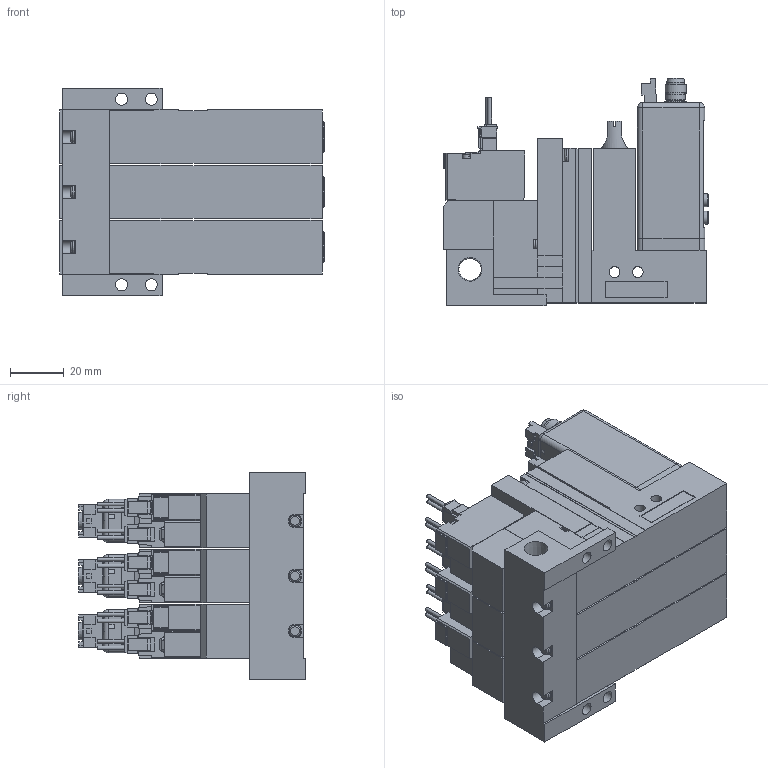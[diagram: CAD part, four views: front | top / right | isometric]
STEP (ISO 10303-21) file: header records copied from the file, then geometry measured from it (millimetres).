
FILE_DESCRIPTION(('STEP AP203'),'1');
FILE_NAME('22_22PLC5ALR303.stp','2025-06-12T02:27:31',(' '),(' '),'Spatial InterOp 3D',' ',' ');
FILE_SCHEMA(('CONFIG_CONTROL_DESIGN'));
Length unit declared in the file: millimetre
Products named in the file (7): BMC22M※※※※22_22PLC5ALR303; Solenoid valve A; Unit LC; Base MR30R; MVS-202
Assembly tree (10 placements, depth 2):
  BMC22M※※※※22_22PLC5ALR303
    Solenoid valve A  x3
    Unit LC  x3
    Base MR30R
    MVS-202
    MVS-202
    MVS-202
Bounding box: 98.5 x 84.6 x 77 mm (x, y, z)
Volume: 331753.7 mm3; surface area: 95213.1 mm2
Topology: 10 solids, 22 shells, 2433 faces, 6347 edges, 4138 vertices
Faces by surface type: plane 2048, cylinder 299, cone 50, torus 24, sphere 12
Full cylindrical faces by diameter (mm): 1 x12, 1.4 x12, 1.5 x3, 2.5 x3, 3 x12, 3.5 x12, 3.6 x3, 4 x6, 4.134 x3, 4.5 x16, 4.8 x9, 5 x6, 5.2 x3, 5.8 x6, 6 x6, 6.5 x9, 6.6 x3, 7 x3, 7.2 x3, 7.9 x3, 8 x6, 8.279 x1
Entity records: 50666 total; most frequent: CARTESIAN_POINT 9162, ORIENTED_EDGE 8312, DIRECTION 8148, EDGE_CURVE 4156, LINE 3526, VECTOR 3526, VERTEX_POINT 2809, AXIS2_PLACEMENT_3D 2311
